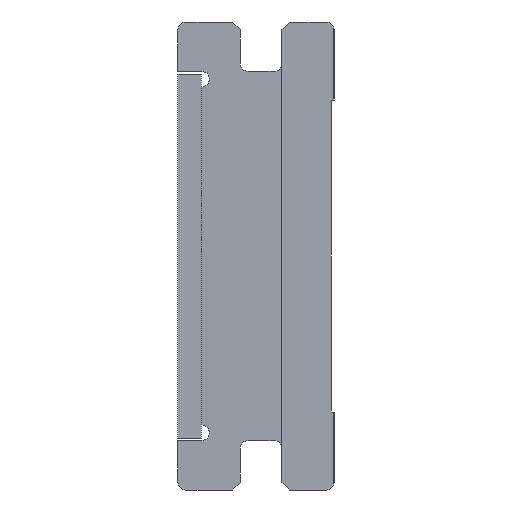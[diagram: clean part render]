
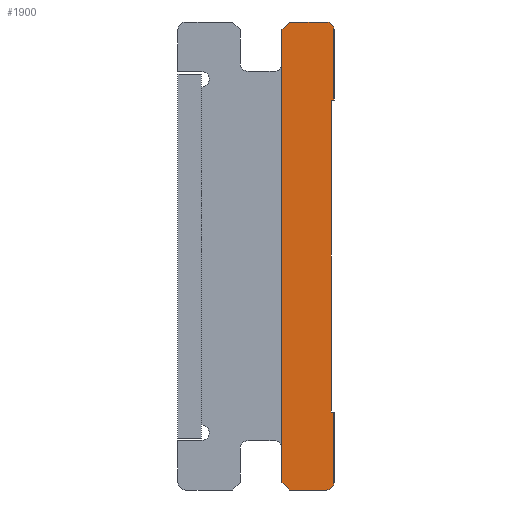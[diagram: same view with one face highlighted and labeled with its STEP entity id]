
A CAD part, left-side view. The second image highlights one B-rep face of the part: STEP entity #1900.
In plain terms, the highlighted planar face has unit normal (-1, 0, 0).
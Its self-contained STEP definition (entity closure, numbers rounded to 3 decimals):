
#7 = ORIENTED_EDGE ( 'NONE', *, *, #343, .F. ) ;
#60 = CARTESIAN_POINT ( 'NONE',  ( -150., 11.7, 34. ) ) ;
#189 = VERTEX_POINT ( 'NONE', #805 ) ;
#209 = LINE ( 'NONE', #1019, #615 ) ;
#247 = PLANE ( 'NONE',  #2202 ) ;
#272 = CARTESIAN_POINT ( 'NONE',  ( -150., 10., 19. ) ) ;
#286 = CIRCLE ( 'NONE', #1657, 0.3 ) ;
#293 = ORIENTED_EDGE ( 'NONE', *, *, #1158, .F. ) ;
#302 = VECTOR ( 'NONE', #1788, 1000. ) ;
#305 = ORIENTED_EDGE ( 'NONE', *, *, #1960, .F. ) ;
#318 = ORIENTED_EDGE ( 'NONE', *, *, #1872, .F. ) ;
#319 = VECTOR ( 'NONE', #440, 1000. ) ;
#335 = CARTESIAN_POINT ( 'NONE',  ( -150., 11.7, 16. ) ) ;
#343 = EDGE_CURVE ( 'NONE', #528, #2443, #286, .T. ) ;
#366 = CARTESIAN_POINT ( 'NONE',  ( -150., 11.7, 16. ) ) ;
#382 = VECTOR ( 'NONE', #2244, 1000. ) ;
#421 = EDGE_CURVE ( 'NONE', #2443, #1174, #1261, .T. ) ;
#440 = DIRECTION ( 'NONE',  ( 0., 1., 0. ) ) ;
#465 = VECTOR ( 'NONE', #577, 1000. ) ;
#528 = VERTEX_POINT ( 'NONE', #1889 ) ;
#577 = DIRECTION ( 'NONE',  ( 0., 0., -1. ) ) ;
#581 = CARTESIAN_POINT ( 'NONE',  ( -150., 10.3, 16. ) ) ;
#594 = CARTESIAN_POINT ( 'NONE',  ( -150., 10., 16.3 ) ) ;
#600 = DIRECTION ( 'NONE',  ( 0., 0., -1. ) ) ;
#610 = VERTEX_POINT ( 'NONE', #1755 ) ;
#615 = VECTOR ( 'NONE', #600, 1000. ) ;
#628 = DIRECTION ( 'NONE',  ( 1., 0., 0. ) ) ;
#659 = LINE ( 'NONE', #672, #664 ) ;
#664 = VECTOR ( 'NONE', #1459, 1000. ) ;
#665 = LINE ( 'NONE', #1417, #302 ) ;
#672 = CARTESIAN_POINT ( 'NONE',  ( -150., 10.3, 34. ) ) ;
#693 = VECTOR ( 'NONE', #992, 1000. ) ;
#729 = DIRECTION ( 'NONE',  ( 0., 0., -1. ) ) ;
#764 = CARTESIAN_POINT ( 'NONE',  ( -150., 11.7, 34. ) ) ;
#786 = EDGE_CURVE ( 'NONE', #1015, #610, #1423, .T. ) ;
#805 = CARTESIAN_POINT ( 'NONE',  ( -150., 10.1, 19. ) ) ;
#842 = CARTESIAN_POINT ( 'NONE',  ( -150., 10.3, 16. ) ) ;
#876 = VECTOR ( 'NONE', #729, 1000. ) ;
#926 = CARTESIAN_POINT ( 'NONE',  ( -150., 10., 19. ) ) ;
#992 = DIRECTION ( 'NONE',  ( 0., -1., 0. ) ) ;
#1007 = DIRECTION ( 'NONE',  ( 0., 1., 0. ) ) ;
#1013 = ORIENTED_EDGE ( 'NONE', *, *, #1827, .F. ) ;
#1015 = VERTEX_POINT ( 'NONE', #2251 ) ;
#1019 = CARTESIAN_POINT ( 'NONE',  ( -150., 10.1, 31. ) ) ;
#1021 = DIRECTION ( 'NONE',  ( 0., 0., -1. ) ) ;
#1073 = CARTESIAN_POINT ( 'NONE',  ( -150., 10.3, 33.7 ) ) ;
#1082 = VERTEX_POINT ( 'NONE', #594 ) ;
#1158 = EDGE_CURVE ( 'NONE', #1704, #528, #659, .T. ) ;
#1174 = VERTEX_POINT ( 'NONE', #2013 ) ;
#1209 = VECTOR ( 'NONE', #2459, 1000. ) ;
#1234 = EDGE_LOOP ( 'NONE', ( #1643, #2157, #1013, #2167, #1630, #2384, #318, #1605, #305, #1281, #7, #293 ) ) ;
#1249 = DIRECTION ( 'NONE',  ( 0., 0., 1. ) ) ;
#1261 = LINE ( 'NONE', #2254, #876 ) ;
#1268 = VERTEX_POINT ( 'NONE', #1511 ) ;
#1281 = ORIENTED_EDGE ( 'NONE', *, *, #421, .F. ) ;
#1359 = VERTEX_POINT ( 'NONE', #366 ) ;
#1377 = EDGE_CURVE ( 'NONE', #1579, #1082, #2430, .T. ) ;
#1379 = CARTESIAN_POINT ( 'NONE',  ( -150., 10.3, 16.3 ) ) ;
#1404 = LINE ( 'NONE', #272, #693 ) ;
#1413 = VECTOR ( 'NONE', #1618, 1000. ) ;
#1417 = CARTESIAN_POINT ( 'NONE',  ( -150., 10., 31. ) ) ;
#1423 = LINE ( 'NONE', #2366, #1413 ) ;
#1459 = DIRECTION ( 'NONE',  ( 0., -1., 0. ) ) ;
#1511 = CARTESIAN_POINT ( 'NONE',  ( -150., 10.1, 31. ) ) ;
#1521 = EDGE_CURVE ( 'NONE', #610, #1704, #2034, .T. ) ;
#1556 = CIRCLE ( 'NONE', #2363, 0.3 ) ;
#1579 = VERTEX_POINT ( 'NONE', #1699 ) ;
#1605 = ORIENTED_EDGE ( 'NONE', *, *, #1655, .F. ) ;
#1613 = DIRECTION ( 'NONE',  ( 1., 0., 0. ) ) ;
#1618 = DIRECTION ( 'NONE',  ( 0., 0., 1. ) ) ;
#1630 = ORIENTED_EDGE ( 'NONE', *, *, #1899, .F. ) ;
#1643 = ORIENTED_EDGE ( 'NONE', *, *, #1521, .F. ) ;
#1647 = LINE ( 'NONE', #335, #382 ) ;
#1655 = EDGE_CURVE ( 'NONE', #1268, #189, #209, .T. ) ;
#1657 = AXIS2_PLACEMENT_3D ( 'NONE', #1073, #1613, #1249 ) ;
#1699 = CARTESIAN_POINT ( 'NONE',  ( -150., 10., 19. ) ) ;
#1704 = VERTEX_POINT ( 'NONE', #60 ) ;
#1730 = FACE_OUTER_BOUND ( 'NONE', #1234, .T. ) ;
#1755 = CARTESIAN_POINT ( 'NONE',  ( -150., 12., 33.7 ) ) ;
#1788 = DIRECTION ( 'NONE',  ( 0., 1., 0. ) ) ;
#1827 = EDGE_CURVE ( 'NONE', #1359, #1015, #1647, .T. ) ;
#1872 = EDGE_CURVE ( 'NONE', #189, #1579, #1404, .T. ) ;
#1889 = CARTESIAN_POINT ( 'NONE',  ( -150., 10.3, 34. ) ) ;
#1899 = EDGE_CURVE ( 'NONE', #1082, #2115, #1556, .T. ) ;
#1900 = ADVANCED_FACE ( 'NONE', ( #1730 ), #247, .F. ) ;
#1943 = LINE ( 'NONE', #581, #319 ) ;
#1960 = EDGE_CURVE ( 'NONE', #1174, #1268, #665, .T. ) ;
#2013 = CARTESIAN_POINT ( 'NONE',  ( -150., 10., 31. ) ) ;
#2034 = LINE ( 'NONE', #764, #1209 ) ;
#2105 = DIRECTION ( 'NONE',  ( 1., 0., 0. ) ) ;
#2115 = VERTEX_POINT ( 'NONE', #842 ) ;
#2123 = CARTESIAN_POINT ( 'NONE',  ( -150., 15.1, 18.2 ) ) ;
#2157 = ORIENTED_EDGE ( 'NONE', *, *, #786, .F. ) ;
#2167 = ORIENTED_EDGE ( 'NONE', *, *, #2180, .F. ) ;
#2180 = EDGE_CURVE ( 'NONE', #2115, #1359, #1943, .T. ) ;
#2186 = CARTESIAN_POINT ( 'NONE',  ( -150., 10., 33.7 ) ) ;
#2202 = AXIS2_PLACEMENT_3D ( 'NONE', #2123, #628, #1007 ) ;
#2244 = DIRECTION ( 'NONE',  ( 0., 0.707, 0.707 ) ) ;
#2251 = CARTESIAN_POINT ( 'NONE',  ( -150., 12., 16.3 ) ) ;
#2254 = CARTESIAN_POINT ( 'NONE',  ( -150., 10., 33.7 ) ) ;
#2363 = AXIS2_PLACEMENT_3D ( 'NONE', #1379, #2105, #1021 ) ;
#2366 = CARTESIAN_POINT ( 'NONE',  ( -150., 12., 16.3 ) ) ;
#2384 = ORIENTED_EDGE ( 'NONE', *, *, #1377, .F. ) ;
#2430 = LINE ( 'NONE', #926, #465 ) ;
#2443 = VERTEX_POINT ( 'NONE', #2186 ) ;
#2459 = DIRECTION ( 'NONE',  ( 0., -0.707, 0.707 ) ) ;
